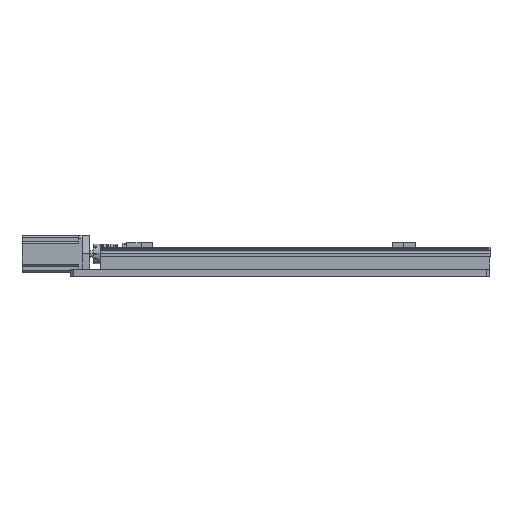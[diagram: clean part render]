
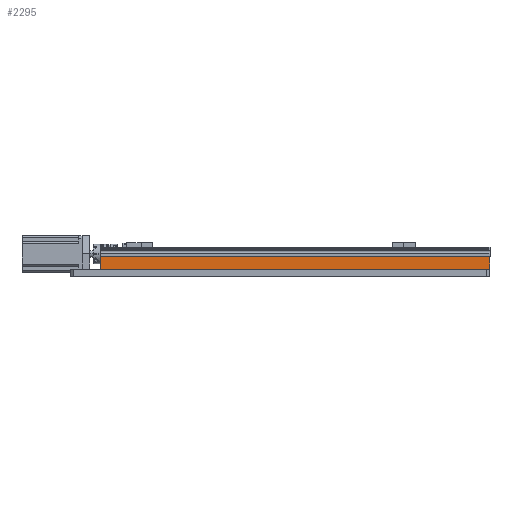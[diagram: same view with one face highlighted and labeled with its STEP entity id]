
A CAD part, front view. The second image highlights one B-rep face of the part: STEP entity #2295.
In plain terms, the highlighted planar face has unit normal (0, -1, 0) as drawn and (0, 0, 1) by its records, which use the part's own axes.
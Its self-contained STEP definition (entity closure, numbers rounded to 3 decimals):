
#1600 = LINE ( 'NONE', #6902, #27036 ) ;
#2295 = ADVANCED_FACE ( 'NONE', ( #15608 ), #15292, .F. ) ;
#4200 = CARTESIAN_POINT ( 'NONE',  ( 0., 20., 20. ) ) ;
#4299 = AXIS2_PLACEMENT_3D ( 'NONE', #28099, #15408, #28002 ) ;
#4595 = CARTESIAN_POINT ( 'NONE',  ( 0., 0., 20. ) ) ;
#6186 = CARTESIAN_POINT ( 'NONE',  ( 0., 0., 20. ) ) ;
#6575 = EDGE_CURVE ( 'NONE', #25203, #12647, #7523, .T. ) ;
#6902 = CARTESIAN_POINT ( 'NONE',  ( 640., 0., 20. ) ) ;
#7523 = LINE ( 'NONE', #4595, #11470 ) ;
#7545 = VERTEX_POINT ( 'NONE', #4200 ) ;
#10215 = EDGE_CURVE ( 'NONE', #7545, #25203, #14745, .T. ) ;
#10997 = EDGE_CURVE ( 'NONE', #12647, #12330, #1600, .T. ) ;
#11470 = VECTOR ( 'NONE', #26926, 1000. ) ;
#12071 = ORIENTED_EDGE ( 'NONE', *, *, #6575, .T. ) ;
#12330 = VERTEX_POINT ( 'NONE', #21395 ) ;
#12647 = VERTEX_POINT ( 'NONE', #28325 ) ;
#13430 = LINE ( 'NONE', #24648, #19702 ) ;
#13970 = CARTESIAN_POINT ( 'NONE',  ( 0., 0., 20. ) ) ;
#14662 = DIRECTION ( 'NONE',  ( -1., 0., 0. ) ) ;
#14745 = LINE ( 'NONE', #6186, #28418 ) ;
#15292 = PLANE ( 'NONE',  #4299 ) ;
#15370 = ORIENTED_EDGE ( 'NONE', *, *, #10997, .T. ) ;
#15408 = DIRECTION ( 'NONE',  ( 0., 0., -1. ) ) ;
#15608 = FACE_OUTER_BOUND ( 'NONE', #27975, .T. ) ;
#18476 = ORIENTED_EDGE ( 'NONE', *, *, #10215, .T. ) ;
#18993 = ORIENTED_EDGE ( 'NONE', *, *, #28348, .T. ) ;
#19702 = VECTOR ( 'NONE', #14662, 1000. ) ;
#21395 = CARTESIAN_POINT ( 'NONE',  ( 640., 20., 20. ) ) ;
#24648 = CARTESIAN_POINT ( 'NONE',  ( 0., 20., 20. ) ) ;
#24682 = DIRECTION ( 'NONE',  ( 0., 1., 0. ) ) ;
#25203 = VERTEX_POINT ( 'NONE', #13970 ) ;
#26926 = DIRECTION ( 'NONE',  ( 1., 0., 0. ) ) ;
#27036 = VECTOR ( 'NONE', #24682, 1000. ) ;
#27975 = EDGE_LOOP ( 'NONE', ( #18476, #12071, #15370, #18993 ) ) ;
#28002 = DIRECTION ( 'NONE',  ( -1., 0., 0. ) ) ;
#28099 = CARTESIAN_POINT ( 'NONE',  ( 0., 0., 20. ) ) ;
#28295 = DIRECTION ( 'NONE',  ( 0., -1., 0. ) ) ;
#28325 = CARTESIAN_POINT ( 'NONE',  ( 640., 0., 20. ) ) ;
#28348 = EDGE_CURVE ( 'NONE', #12330, #7545, #13430, .T. ) ;
#28418 = VECTOR ( 'NONE', #28295, 1000. ) ;
